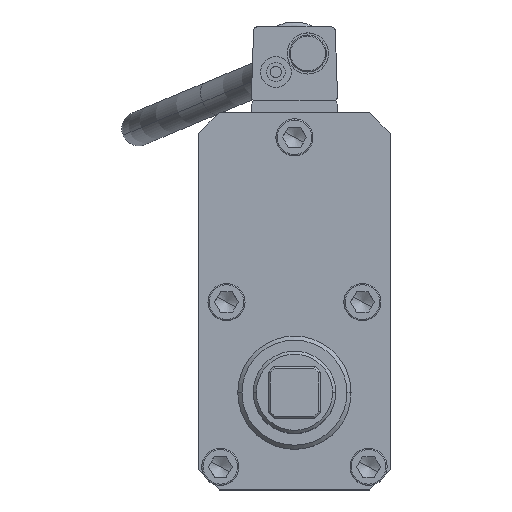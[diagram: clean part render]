
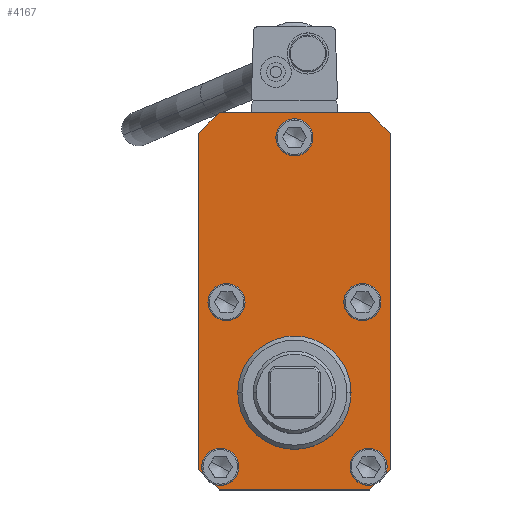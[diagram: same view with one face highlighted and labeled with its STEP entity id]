
A CAD part, top view. The second image highlights one B-rep face of the part: STEP entity #4167.
In plain terms, the highlighted planar face has unit normal (0, 0, 1).
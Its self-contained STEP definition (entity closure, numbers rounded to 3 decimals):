
#3796=AXIS2_PLACEMENT_3D('Circle Axis2P3D',#3794,#3795,$) ;
#3815=AXIS2_PLACEMENT_3D('Circle Axis2P3D',#3813,#3814,$) ;
#4024=AXIS2_PLACEMENT_3D('Circle Axis2P3D',#4022,#4023,$) ;
#4055=AXIS2_PLACEMENT_3D('Circle Axis2P3D',#4053,#4054,$) ;
#4075=AXIS2_PLACEMENT_3D('Plane Axis2P3D',#4072,#4073,#4074) ;
#4097=AXIS2_PLACEMENT_3D('Circle Axis2P3D',#4095,#4096,$) ;
#4106=AXIS2_PLACEMENT_3D('Circle Axis2P3D',#4104,#4105,$) ;
#4115=AXIS2_PLACEMENT_3D('Circle Axis2P3D',#4113,#4114,$) ;
#4124=AXIS2_PLACEMENT_3D('Circle Axis2P3D',#4122,#4123,$) ;
#4133=AXIS2_PLACEMENT_3D('Circle Axis2P3D',#4131,#4132,$) ;
#4142=AXIS2_PLACEMENT_3D('Circle Axis2P3D',#4140,#4141,$) ;
#4151=AXIS2_PLACEMENT_3D('Circle Axis2P3D',#4149,#4150,$) ;
#4160=AXIS2_PLACEMENT_3D('Circle Axis2P3D',#4158,#4159,$) ;
#3791=CARTESIAN_POINT('Vertex',(27.5,-94.43,484.6)) ;
#3794=CARTESIAN_POINT('Axis2P3D Location',(0.,-94.43,484.6)) ;
#3798=CARTESIAN_POINT('Vertex',(-27.5,-94.43,484.6)) ;
#3813=CARTESIAN_POINT('Axis2P3D Location',(0.,-94.43,484.6)) ;
#3834=CARTESIAN_POINT('Vertex',(-36.5,-141.43,484.6)) ;
#3837=CARTESIAN_POINT('Line Origine',(-41.5,-136.43,484.6)) ;
#3841=CARTESIAN_POINT('Vertex',(-46.5,-131.43,484.6)) ;
#3865=CARTESIAN_POINT('Vertex',(36.5,-141.43,484.6)) ;
#3868=CARTESIAN_POINT('Line Origine',(0.,-141.43,484.6)) ;
#3889=CARTESIAN_POINT('Vertex',(46.5,-131.43,484.6)) ;
#3892=CARTESIAN_POINT('Line Origine',(41.5,-136.43,484.6)) ;
#3913=CARTESIAN_POINT('Vertex',(46.5,31.57,484.6)) ;
#3916=CARTESIAN_POINT('Line Origine',(46.5,-49.93,484.6)) ;
#3937=CARTESIAN_POINT('Vertex',(36.5,41.57,484.6)) ;
#3940=CARTESIAN_POINT('Line Origine',(41.5,36.57,484.6)) ;
#3957=CARTESIAN_POINT('Line Origine',(0.,41.57,484.6)) ;
#3961=CARTESIAN_POINT('Vertex',(-36.5,41.57,484.6)) ;
#3985=CARTESIAN_POINT('Vertex',(-46.5,31.57,484.6)) ;
#3988=CARTESIAN_POINT('Line Origine',(-41.5,36.57,484.6)) ;
#4005=CARTESIAN_POINT('Line Origine',(-46.5,-49.93,484.6)) ;
#4022=CARTESIAN_POINT('Axis2P3D Location',(-36.,-130.43,484.6)) ;
#4026=CARTESIAN_POINT('Vertex',(-31.127,-133.092,484.6)) ;
#4028=CARTESIAN_POINT('Vertex',(-40.873,-127.768,484.6)) ;
#4053=CARTESIAN_POINT('Axis2P3D Location',(-36.,-130.43,484.6)) ;
#4072=CARTESIAN_POINT('Axis2P3D Location',(0.,-94.43,484.6)) ;
#4095=CARTESIAN_POINT('Axis2P3D Location',(-33.,-50.43,484.6)) ;
#4099=CARTESIAN_POINT('Vertex',(-37.873,-47.768,484.6)) ;
#4101=CARTESIAN_POINT('Vertex',(-28.127,-53.092,484.6)) ;
#4104=CARTESIAN_POINT('Axis2P3D Location',(-33.,-50.43,484.6)) ;
#4113=CARTESIAN_POINT('Axis2P3D Location',(33.,-50.43,484.6)) ;
#4117=CARTESIAN_POINT('Vertex',(28.127,-47.768,484.6)) ;
#4119=CARTESIAN_POINT('Vertex',(37.873,-53.092,484.6)) ;
#4122=CARTESIAN_POINT('Axis2P3D Location',(33.,-50.43,484.6)) ;
#4131=CARTESIAN_POINT('Axis2P3D Location',(36.,-130.43,484.6)) ;
#4135=CARTESIAN_POINT('Vertex',(31.127,-127.768,484.6)) ;
#4137=CARTESIAN_POINT('Vertex',(40.873,-133.092,484.6)) ;
#4140=CARTESIAN_POINT('Axis2P3D Location',(36.,-130.43,484.6)) ;
#4149=CARTESIAN_POINT('Axis2P3D Location',(0.,29.57,484.6)) ;
#4153=CARTESIAN_POINT('Vertex',(-4.873,32.232,484.6)) ;
#4155=CARTESIAN_POINT('Vertex',(4.873,26.908,484.6)) ;
#4158=CARTESIAN_POINT('Axis2P3D Location',(0.,29.57,484.6)) ;
#3795=DIRECTION('Axis2P3D Direction',(0.,0.,1.)) ;
#3814=DIRECTION('Axis2P3D Direction',(0.,0.,1.)) ;
#3838=DIRECTION('Vector Direction',(0.707,-0.707,0.)) ;
#3869=DIRECTION('Vector Direction',(-1.,0.,0.)) ;
#3893=DIRECTION('Vector Direction',(-0.707,-0.707,0.)) ;
#3917=DIRECTION('Vector Direction',(0.,-1.,0.)) ;
#3941=DIRECTION('Vector Direction',(-0.707,0.707,0.)) ;
#3958=DIRECTION('Vector Direction',(1.,0.,0.)) ;
#3989=DIRECTION('Vector Direction',(0.707,0.707,0.)) ;
#4006=DIRECTION('Vector Direction',(0.,1.,0.)) ;
#4023=DIRECTION('Axis2P3D Direction',(0.,0.,1.)) ;
#4054=DIRECTION('Axis2P3D Direction',(0.,0.,1.)) ;
#4073=DIRECTION('Axis2P3D Direction',(0.,0.,-1.)) ;
#4074=DIRECTION('Axis2P3D XDirection',(-1.,0.,0.)) ;
#4096=DIRECTION('Axis2P3D Direction',(0.,0.,-1.)) ;
#4105=DIRECTION('Axis2P3D Direction',(0.,0.,-1.)) ;
#4114=DIRECTION('Axis2P3D Direction',(0.,0.,-1.)) ;
#4123=DIRECTION('Axis2P3D Direction',(0.,0.,-1.)) ;
#4132=DIRECTION('Axis2P3D Direction',(0.,0.,-1.)) ;
#4141=DIRECTION('Axis2P3D Direction',(0.,0.,-1.)) ;
#4150=DIRECTION('Axis2P3D Direction',(0.,0.,-1.)) ;
#4159=DIRECTION('Axis2P3D Direction',(0.,0.,-1.)) ;
#3839=VECTOR('Line Direction',#3838,1.) ;
#3870=VECTOR('Line Direction',#3869,1.) ;
#3894=VECTOR('Line Direction',#3893,1.) ;
#3918=VECTOR('Line Direction',#3917,1.) ;
#3942=VECTOR('Line Direction',#3941,1.) ;
#3959=VECTOR('Line Direction',#3958,1.) ;
#3990=VECTOR('Line Direction',#3989,1.) ;
#4007=VECTOR('Line Direction',#4006,1.) ;
#4078=ORIENTED_EDGE('',*,*,#3843,.F.) ;
#4079=ORIENTED_EDGE('',*,*,#3872,.F.) ;
#4080=ORIENTED_EDGE('',*,*,#3896,.F.) ;
#4081=ORIENTED_EDGE('',*,*,#3920,.F.) ;
#4082=ORIENTED_EDGE('',*,*,#3944,.F.) ;
#4083=ORIENTED_EDGE('',*,*,#3963,.F.) ;
#4084=ORIENTED_EDGE('',*,*,#3992,.F.) ;
#4085=ORIENTED_EDGE('',*,*,#4009,.F.) ;
#4088=ORIENTED_EDGE('',*,*,#4030,.T.) ;
#4089=ORIENTED_EDGE('',*,*,#4057,.T.) ;
#4092=ORIENTED_EDGE('',*,*,#3800,.F.) ;
#4093=ORIENTED_EDGE('',*,*,#3817,.F.) ;
#4110=ORIENTED_EDGE('',*,*,#4103,.T.) ;
#4111=ORIENTED_EDGE('',*,*,#4108,.T.) ;
#4128=ORIENTED_EDGE('',*,*,#4121,.T.) ;
#4129=ORIENTED_EDGE('',*,*,#4126,.T.) ;
#4146=ORIENTED_EDGE('',*,*,#4139,.T.) ;
#4147=ORIENTED_EDGE('',*,*,#4144,.T.) ;
#4164=ORIENTED_EDGE('',*,*,#4157,.T.) ;
#4165=ORIENTED_EDGE('',*,*,#4162,.T.) ;
#4090=FACE_BOUND('',#4087,.T.) ;
#4094=FACE_BOUND('',#4091,.T.) ;
#4112=FACE_BOUND('',#4109,.T.) ;
#4130=FACE_BOUND('',#4127,.T.) ;
#4148=FACE_BOUND('',#4145,.T.) ;
#4166=FACE_BOUND('',#4163,.T.) ;
#4167=ADVANCED_FACE('AO3425.1\\AO3425_Gehaeuse.1\\Hauptk\X2\00F6\X0\rper',(#4086,#4090,#4094,#4112,#4130,#4148,#4166),#4076,.F.) ;
#3797=CIRCLE('generated circle',#3796,27.5) ;
#3816=CIRCLE('generated circle',#3815,27.5) ;
#4025=CIRCLE('generated circle',#4024,5.553) ;
#4056=CIRCLE('generated circle',#4055,5.553) ;
#4098=CIRCLE('generated circle',#4097,5.553) ;
#4107=CIRCLE('generated circle',#4106,5.553) ;
#4116=CIRCLE('generated circle',#4115,5.553) ;
#4125=CIRCLE('generated circle',#4124,5.553) ;
#4134=CIRCLE('generated circle',#4133,5.553) ;
#4143=CIRCLE('generated circle',#4142,5.553) ;
#4152=CIRCLE('generated circle',#4151,5.553) ;
#4161=CIRCLE('generated circle',#4160,5.553) ;
#3800=EDGE_CURVE('',#3792,#3799,#3797,.T.) ;
#3817=EDGE_CURVE('',#3799,#3792,#3816,.T.) ;
#3843=EDGE_CURVE('',#3835,#3842,#3840,.F.) ;
#3872=EDGE_CURVE('',#3866,#3835,#3871,.T.) ;
#3896=EDGE_CURVE('',#3890,#3866,#3895,.T.) ;
#3920=EDGE_CURVE('',#3914,#3890,#3919,.T.) ;
#3944=EDGE_CURVE('',#3938,#3914,#3943,.F.) ;
#3963=EDGE_CURVE('',#3962,#3938,#3960,.T.) ;
#3992=EDGE_CURVE('',#3986,#3962,#3991,.T.) ;
#4009=EDGE_CURVE('',#3842,#3986,#4008,.T.) ;
#4030=EDGE_CURVE('',#4027,#4029,#4025,.F.) ;
#4057=EDGE_CURVE('',#4029,#4027,#4056,.F.) ;
#4103=EDGE_CURVE('',#4100,#4102,#4098,.T.) ;
#4108=EDGE_CURVE('',#4102,#4100,#4107,.T.) ;
#4121=EDGE_CURVE('',#4118,#4120,#4116,.T.) ;
#4126=EDGE_CURVE('',#4120,#4118,#4125,.T.) ;
#4139=EDGE_CURVE('',#4136,#4138,#4134,.T.) ;
#4144=EDGE_CURVE('',#4138,#4136,#4143,.T.) ;
#4157=EDGE_CURVE('',#4154,#4156,#4152,.T.) ;
#4162=EDGE_CURVE('',#4156,#4154,#4161,.T.) ;
#4077=EDGE_LOOP('',(#4078,#4079,#4080,#4081,#4082,#4083,#4084,#4085)) ;
#4087=EDGE_LOOP('',(#4088,#4089)) ;
#4091=EDGE_LOOP('',(#4092,#4093)) ;
#4109=EDGE_LOOP('',(#4110,#4111)) ;
#4127=EDGE_LOOP('',(#4128,#4129)) ;
#4145=EDGE_LOOP('',(#4146,#4147)) ;
#4163=EDGE_LOOP('',(#4164,#4165)) ;
#4086=FACE_OUTER_BOUND('',#4077,.T.) ;
#3840=LINE('Line',#3837,#3839) ;
#3871=LINE('Line',#3868,#3870) ;
#3895=LINE('Line',#3892,#3894) ;
#3919=LINE('Line',#3916,#3918) ;
#3943=LINE('Line',#3940,#3942) ;
#3960=LINE('Line',#3957,#3959) ;
#3991=LINE('Line',#3988,#3990) ;
#4008=LINE('Line',#4005,#4007) ;
#4076=PLANE('Plane',#4075) ;
#3792=VERTEX_POINT('',#3791) ;
#3799=VERTEX_POINT('',#3798) ;
#3835=VERTEX_POINT('',#3834) ;
#3842=VERTEX_POINT('',#3841) ;
#3866=VERTEX_POINT('',#3865) ;
#3890=VERTEX_POINT('',#3889) ;
#3914=VERTEX_POINT('',#3913) ;
#3938=VERTEX_POINT('',#3937) ;
#3962=VERTEX_POINT('',#3961) ;
#3986=VERTEX_POINT('',#3985) ;
#4027=VERTEX_POINT('',#4026) ;
#4029=VERTEX_POINT('',#4028) ;
#4100=VERTEX_POINT('',#4099) ;
#4102=VERTEX_POINT('',#4101) ;
#4118=VERTEX_POINT('',#4117) ;
#4120=VERTEX_POINT('',#4119) ;
#4136=VERTEX_POINT('',#4135) ;
#4138=VERTEX_POINT('',#4137) ;
#4154=VERTEX_POINT('',#4153) ;
#4156=VERTEX_POINT('',#4155) ;
